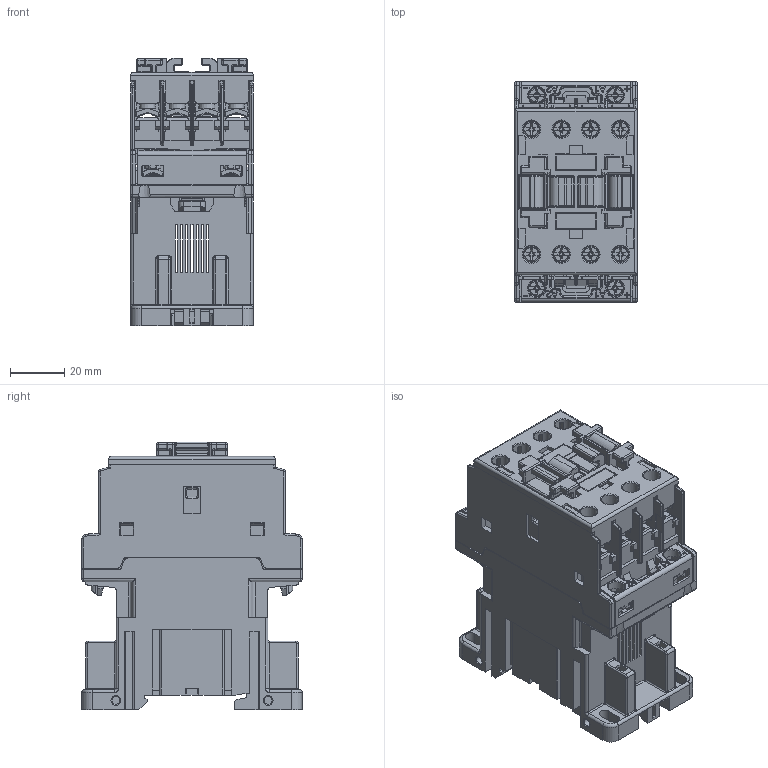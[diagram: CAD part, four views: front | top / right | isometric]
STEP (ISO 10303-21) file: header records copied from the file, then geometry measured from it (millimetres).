
FILE_DESCRIPTION(/* description */ (''),/* implementation_level */ '2;1');
FILE_NAME(/* name */ 'FILE_STP_CAD_DRAWING_3d_BF09_25_D_L_prt.stp',/* time_stamp */ '2022-01-25T14:17:40+01:00',/* author */ (''),/* organization */ (''),/* preprocessor_version */ 'ST-DEVELOPER v16.7',/* originating_system */ 'SIEMENS PLM Software NX 12.0',/* authorisation */ '');
FILE_SCHEMA (('AUTOMOTIVE_DESIGN { 1 0 10303 214 3 1 1 1 }'));
Products named in the file (1): 3d_BF09_25_D_L
Bounding box: 45 x 81 x 98.53 mm (x, y, z)
Surface area: 59978.8 mm2 (no closed solid volume)
Topology: 0 solids, 88 shells, 2635 faces, 10084 edges, 7241 vertices
Faces by surface type: plane 1374, cylinder 852, bspline 159, torus 151, sphere 64, cone 35
Full cylindrical faces by diameter (mm): 2.4 x4, 2.85 x4, 3 x2, 3.48 x4, 6.2 x12
Entity records: 110009 total; most frequent: CARTESIAN_POINT 27250, DIRECTION 16853, ORIENTED_EDGE 15545, EDGE_CURVE 9910, VERTEX_POINT 7210, LINE 6675, VECTOR 6675, AXIS2_PLACEMENT_3D 5089
